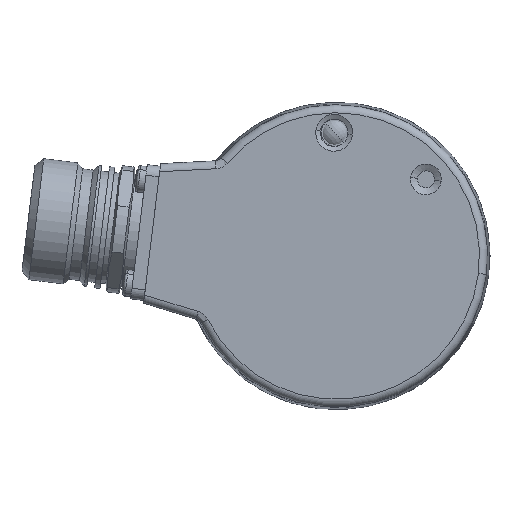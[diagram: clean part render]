
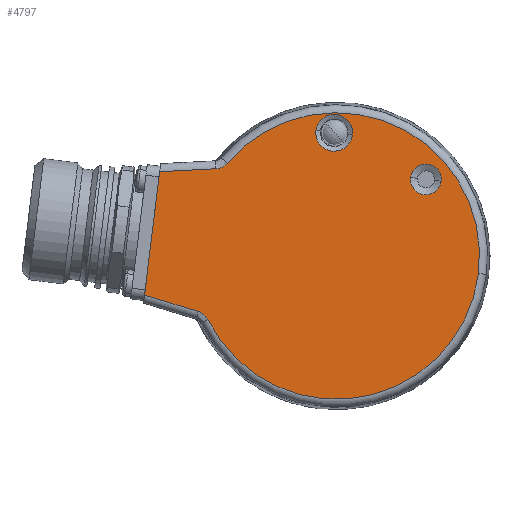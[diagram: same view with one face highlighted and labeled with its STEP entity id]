
A CAD part, left-side view. The second image highlights one B-rep face of the part: STEP entity #4797.
In plain terms, the highlighted planar face has unit normal (-1, 0, 0).
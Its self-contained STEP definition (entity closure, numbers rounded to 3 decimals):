
#604 = CARTESIAN_POINT ( 'NONE',  ( -34.46, -22.198, 17.407 ) ) ;
#605 = DIRECTION ( 'NONE',  ( 0., -0.993, -0.122 ) ) ;
#606 = DIRECTION ( 'NONE',  ( 1., 0., 0. ) ) ;
#607 = AXIS2_PLACEMENT_3D ( 'NONE', #615, #606, #605 ) ;
#608 = CIRCLE ( 'NONE', #607, 2.899 ) ;
#615 = CARTESIAN_POINT ( 'NONE',  ( -34.46, -25.076, 17.053 ) ) ;
#661 = CARTESIAN_POINT ( 'NONE',  ( -34.46, -27.953, 16.7 ) ) ;
#785 = CARTESIAN_POINT ( 'NONE',  ( -34.46, -4.311, 26.272 ) ) ;
#786 = CARTESIAN_POINT ( 'NONE',  ( -34.46, -34.977, -0.69 ) ) ;
#842 = CARTESIAN_POINT ( 'NONE',  ( -34.46, -11.191, 25.427 ) ) ;
#1070 = DIRECTION ( 'NONE',  ( 0., -0.993, -0.122 ) ) ;
#1071 = DIRECTION ( 'NONE',  ( 1., 0., 0. ) ) ;
#1072 = CARTESIAN_POINT ( 'NONE',  ( -34.46, -7.751, 25.85 ) ) ;
#1073 = AXIS2_PLACEMENT_3D ( 'NONE', #1072, #1071, #1070 ) ;
#1074 = CIRCLE ( 'NONE', #1073, 3.466 ) ;
#1375 = DIRECTION ( 'NONE',  ( 0., -0.993, -0.122 ) ) ;
#1376 = DIRECTION ( 'NONE',  ( -1., 0., 0. ) ) ;
#1377 = CARTESIAN_POINT ( 'NONE',  ( -34.46, -8.157, 2.603 ) ) ;
#1378 = AXIS2_PLACEMENT_3D ( 'NONE', #1377, #1376, #1375 ) ;
#1379 = CIRCLE ( 'NONE', #1378, 27.022 ) ;
#1655 = CARTESIAN_POINT ( 'NONE',  ( -34.46, 16.139, -9.227 ) ) ;
#1656 = CARTESIAN_POINT ( 'NONE',  ( -34.46, 16.048, -9.41 ) ) ;
#1665 = B_SPLINE_CURVE_WITH_KNOTS ( 'NONE', 3,
 ( #1656, #1655, #1794, #1793, #1792, #1791, #1790, #1789, #1788, #1787 ),
 .UNSPECIFIED., .F., .F.,
 ( 4, 2, 2, 2, 4 ),
 ( 0., 0.001, 0.001, 0.002, 0.002 ),
 .UNSPECIFIED. ) ;
#1669 = CARTESIAN_POINT ( 'NONE',  ( -34.46, 12.423, 20.116 ) ) ;
#1787 = CARTESIAN_POINT ( 'NONE',  ( -34.46, 17.859, -7.875 ) ) ;
#1788 = CARTESIAN_POINT ( 'NONE',  ( -34.46, 17.663, -7.935 ) ) ;
#1789 = CARTESIAN_POINT ( 'NONE',  ( -34.46, 17.476, -8.014 ) ) ;
#1790 = CARTESIAN_POINT ( 'NONE',  ( -34.46, 17.121, -8.208 ) ) ;
#1791 = CARTESIAN_POINT ( 'NONE',  ( -34.46, 16.951, -8.324 ) ) ;
#1792 = CARTESIAN_POINT ( 'NONE',  ( -34.46, 16.641, -8.587 ) ) ;
#1793 = CARTESIAN_POINT ( 'NONE',  ( -34.46, 16.5, -8.733 ) ) ;
#1794 = CARTESIAN_POINT ( 'NONE',  ( -34.46, 16.25, -9.052 ) ) ;
#2758 = CARTESIAN_POINT ( 'NONE',  ( -34.46, 17.859, -7.875 ) ) ;
#3042 = CIRCLE ( 'NONE', #3047, 2.899 ) ;
#3044 = CARTESIAN_POINT ( 'NONE',  ( -34.46, -25.076, 17.053 ) ) ;
#3045 = DIRECTION ( 'NONE',  ( 0., -0.993, -0.122 ) ) ;
#3046 = DIRECTION ( 'NONE',  ( 1., 0., 0. ) ) ;
#3047 = AXIS2_PLACEMENT_3D ( 'NONE', #3044, #3046, #3045 ) ;
#3055 = FACE_OUTER_BOUND ( 'NONE', #4981, .T. ) ;
#3056 = FACE_BOUND ( 'NONE', #4786, .T. ) ;
#3057 = FACE_BOUND ( 'NONE', #4894, .T. ) ;
#3107 = DIRECTION ( 'NONE',  ( 0., 0.999, -0.052 ) ) ;
#3108 = VECTOR ( 'NONE', #3107, 1000. ) ;
#3109 = CARTESIAN_POINT ( 'NONE',  ( -34.46, 24.889, 18.522 ) ) ;
#3110 = LINE ( 'NONE', #3109, #3108 ) ;
#3126 = DIRECTION ( 'NONE',  ( 0., -0.993, -0.122 ) ) ;
#3127 = DIRECTION ( 'NONE',  ( 1., 0., 0. ) ) ;
#3128 = CARTESIAN_POINT ( 'NONE',  ( -34.46, -8.157, 2.603 ) ) ;
#3129 = AXIS2_PLACEMENT_3D ( 'NONE', #3128, #3127, #3126 ) ;
#3131 = PLANE ( 'NONE',  #3129 ) ;
#3151 = DIRECTION ( 'NONE',  ( 0., -0.956, -0.292 ) ) ;
#3152 = VECTOR ( 'NONE', #3151, 1000. ) ;
#3153 = CARTESIAN_POINT ( 'NONE',  ( -34.46, 17.206, -8.075 ) ) ;
#3154 = LINE ( 'NONE', #3153, #3152 ) ;
#3258 = CARTESIAN_POINT ( 'NONE',  ( -34.46, 25.153, 18.508 ) ) ;
#3260 = CARTESIAN_POINT ( 'NONE',  ( -34.46, 14.551, 19.064 ) ) ;
#3357 = DIRECTION ( 'NONE',  ( 0., -0.993, -0.122 ) ) ;
#3358 = DIRECTION ( 'NONE',  ( 1., 0., 0. ) ) ;
#3359 = CARTESIAN_POINT ( 'NONE',  ( -34.46, -7.751, 25.85 ) ) ;
#3360 = CARTESIAN_POINT ( 'NONE',  ( -34.46, 12.423, 20.116 ) ) ;
#3361 = CARTESIAN_POINT ( 'NONE',  ( -34.46, 12.556, 19.959 ) ) ;
#3362 = CARTESIAN_POINT ( 'NONE',  ( -34.46, 12.702, 19.819 ) ) ;
#3363 = CARTESIAN_POINT ( 'NONE',  ( -34.46, 13.021, 19.57 ) ) ;
#3364 = CARTESIAN_POINT ( 'NONE',  ( -34.46, 13.196, 19.461 ) ) ;
#3365 = CARTESIAN_POINT ( 'NONE',  ( -34.46, 13.56, 19.28 ) ) ;
#3366 = CARTESIAN_POINT ( 'NONE',  ( -34.46, 13.749, 19.21 ) ) ;
#3376 = CARTESIAN_POINT ( 'NONE',  ( -34.46, 14.142, 19.106 ) ) ;
#3377 = CARTESIAN_POINT ( 'NONE',  ( -34.46, 14.346, 19.074 ) ) ;
#3378 = CARTESIAN_POINT ( 'NONE',  ( -34.46, 14.551, 19.064 ) ) ;
#3379 = AXIS2_PLACEMENT_3D ( 'NONE', #3359, #3358, #3357 ) ;
#3380 = CIRCLE ( 'NONE', #3379, 3.466 ) ;
#3382 = B_SPLINE_CURVE_WITH_KNOTS ( 'NONE', 3,
 ( #3378, #3377, #3376, #3366, #3365, #3364, #3363, #3362, #3361, #3360 ),
 .UNSPECIFIED., .F., .F.,
 ( 4, 2, 2, 2, 4 ),
 ( 0., 0.001, 0.001, 0.002, 0.002 ),
 .UNSPECIFIED. ) ;
#3425 = CARTESIAN_POINT ( 'NONE',  ( -34.46, 28.012, -4.771 ) ) ;
#3426 = DIRECTION ( 'NONE',  ( 0., -0.122, 0.993 ) ) ;
#3506 = VECTOR ( 'NONE', #3426, 1000. ) ;
#3507 = CARTESIAN_POINT ( 'NONE',  ( -34.46, 28.197, -6.283 ) ) ;
#3508 = LINE ( 'NONE', #3507, #3506 ) ;
#3510 = CARTESIAN_POINT ( 'NONE',  ( -34.46, 16.048, -9.41 ) ) ;
#3516 = DIRECTION ( 'NONE',  ( 0., -0.993, -0.122 ) ) ;
#3517 = DIRECTION ( 'NONE',  ( -1., 0., 0. ) ) ;
#3518 = CARTESIAN_POINT ( 'NONE',  ( -34.46, -8.157, 2.603 ) ) ;
#3519 = AXIS2_PLACEMENT_3D ( 'NONE', #3518, #3517, #3516 ) ;
#3520 = CIRCLE ( 'NONE', #3519, 27.022 ) ;
#3940 = EDGE_CURVE ( 'NONE', #3941, #3944, #608, .T. ) ;
#3941 = VERTEX_POINT ( 'NONE', #604 ) ;
#3944 = VERTEX_POINT ( 'NONE', #661 ) ;
#4033 = VERTEX_POINT ( 'NONE', #842 ) ;
#4141 = VERTEX_POINT ( 'NONE', #786 ) ;
#4152 = VERTEX_POINT ( 'NONE', #785 ) ;
#4242 = EDGE_CURVE ( 'NONE', #4152, #4033, #1074, .T. ) ;
#4324 = EDGE_CURVE ( 'NONE', #4141, #4365, #1379, .T. ) ;
#4365 = VERTEX_POINT ( 'NONE', #1669 ) ;
#4585 = EDGE_CURVE ( 'NONE', #4912, #4695, #1665, .T. ) ;
#4695 = VERTEX_POINT ( 'NONE', #2758 ) ;
#4780 = ORIENTED_EDGE ( 'NONE', *, *, #4851, .T. ) ;
#4786 = EDGE_LOOP ( 'NONE', ( #4974, #4977 ) ) ;
#4787 = EDGE_CURVE ( 'NONE', #3944, #3941, #3042, .T. ) ;
#4793 = ORIENTED_EDGE ( 'NONE', *, *, #4966, .F. ) ;
#4797 = ADVANCED_FACE ( 'NONE', ( #3057, #3056, #3055 ), #3131, .F. ) ;
#4807 = EDGE_CURVE ( 'NONE', #4920, #4695, #3154, .T. ) ;
#4842 = VERTEX_POINT ( 'NONE', #3260 ) ;
#4847 = VERTEX_POINT ( 'NONE', #3258 ) ;
#4851 = EDGE_CURVE ( 'NONE', #4842, #4847, #3110, .T. ) ;
#4894 = EDGE_LOOP ( 'NONE', ( #4967, #4969 ) ) ;
#4901 = EDGE_CURVE ( 'NONE', #4912, #4141, #3520, .T. ) ;
#4912 = VERTEX_POINT ( 'NONE', #3510 ) ;
#4918 = EDGE_CURVE ( 'NONE', #4920, #4847, #3508, .T. ) ;
#4920 = VERTEX_POINT ( 'NONE', #3425 ) ;
#4947 = ORIENTED_EDGE ( 'NONE', *, *, #4901, .T. ) ;
#4948 = ORIENTED_EDGE ( 'NONE', *, *, #4324, .T. ) ;
#4950 = ORIENTED_EDGE ( 'NONE', *, *, #4807, .T. ) ;
#4951 = ORIENTED_EDGE ( 'NONE', *, *, #4585, .F. ) ;
#4962 = ORIENTED_EDGE ( 'NONE', *, *, #4918, .F. ) ;
#4966 = EDGE_CURVE ( 'NONE', #4842, #4365, #3382, .T. ) ;
#4967 = ORIENTED_EDGE ( 'NONE', *, *, #4242, .T. ) ;
#4969 = ORIENTED_EDGE ( 'NONE', *, *, #4983, .T. ) ;
#4974 = ORIENTED_EDGE ( 'NONE', *, *, #3940, .T. ) ;
#4977 = ORIENTED_EDGE ( 'NONE', *, *, #4787, .T. ) ;
#4981 = EDGE_LOOP ( 'NONE', ( #4793, #4780, #4962, #4950, #4951, #4947, #4948 ) ) ;
#4983 = EDGE_CURVE ( 'NONE', #4033, #4152, #3380, .T. ) ;
